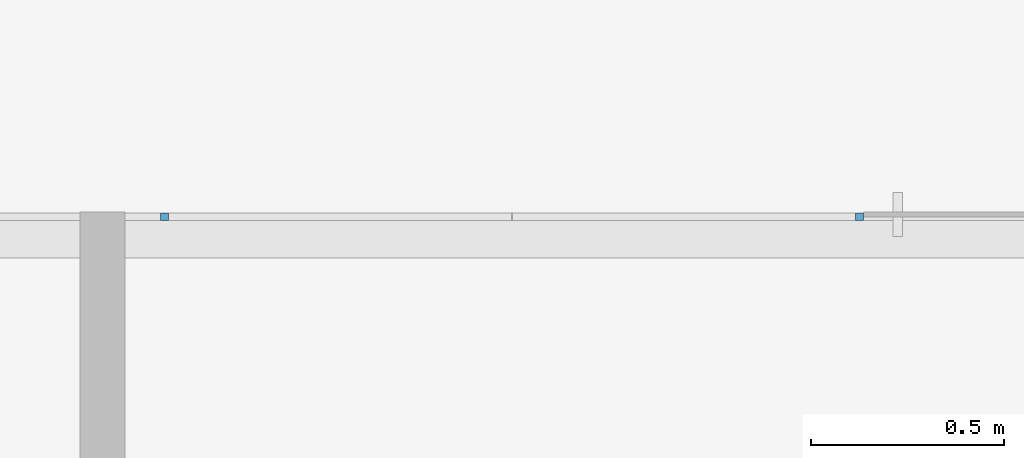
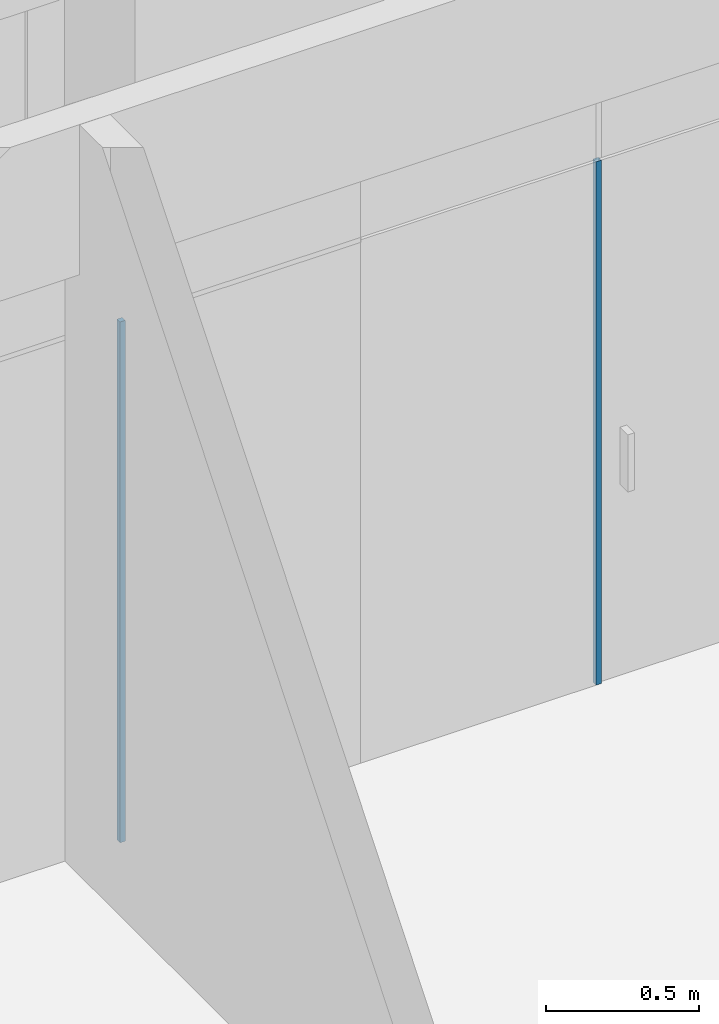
# One storey, part 3 of 73: 2 members, 1 element without a shape of its own.
"""IFC2X3 building model written with IfcOpenShell, lengths in millimetres."""

from ifc_helpers import new_model, entity, si_unit, converted_unit, derived_unit, direction, frame, origin, origin_2d_with_axis, place, context, subcontext, project, spatial, rectangle, extrude, source, transform, mapped, material, type_object, type_shapes, element, aggregate, save


model = new_model("IFC2X3")

# Units and contexts
model_context = context("Model", 3, precision=0.01, world=origin(), true_north=direction((6.12303176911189e-17, 1.0)))
body_context = subcontext(model_context, "Body", "Model", "MODEL_VIEW")
ifc_project = project(units=[si_unit("LENGTHUNIT", "METRE", prefix="MILLI"), si_unit("AREAUNIT", "SQUARE_METRE"), si_unit("VOLUMEUNIT", "CUBIC_METRE"), converted_unit("PLANEANGLEUNIT", "DEGREE", entity("IfcRatioMeasure", 0.0174532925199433), si_unit("PLANEANGLEUNIT", "RADIAN"), dimensions=[0, 0, 0, 0, 0, 0, 0]), si_unit("MASSUNIT", "GRAM", prefix="KILO"), derived_unit("MASSDENSITYUNIT", [(si_unit("MASSUNIT", "GRAM", prefix="KILO"), 1), (si_unit("LENGTHUNIT", "METRE"), -3)]), si_unit("TIMEUNIT", "SECOND"), si_unit("FREQUENCYUNIT", "HERTZ"), si_unit("THERMODYNAMICTEMPERATUREUNIT", "DEGREE_CELSIUS"), derived_unit("THERMALTRANSMITTANCEUNIT", [(si_unit("MASSUNIT", "GRAM", prefix="KILO"), 1), (si_unit("THERMODYNAMICTEMPERATUREUNIT", "KELVIN"), -1), (si_unit("TIMEUNIT", "SECOND"), -3)]), derived_unit("VOLUMETRICFLOWRATEUNIT", [(si_unit("LENGTHUNIT", "METRE"), 3), (si_unit("TIMEUNIT", "SECOND"), -1)]), si_unit("ELECTRICCURRENTUNIT", "AMPERE"), si_unit("ELECTRICVOLTAGEUNIT", "VOLT"), si_unit("POWERUNIT", "WATT"), si_unit("FORCEUNIT", "NEWTON", prefix="KILO"), si_unit("ILLUMINANCEUNIT", "LUX"), si_unit("LUMINOUSFLUXUNIT", "LUMEN"), si_unit("LUMINOUSINTENSITYUNIT", "CANDELA"), derived_unit("USERDEFINED", [(si_unit("MASSUNIT", "GRAM", prefix="KILO"), -1), (si_unit("LENGTHUNIT", "METRE"), -2), (si_unit("TIMEUNIT", "SECOND"), 3), (si_unit("LUMINOUSFLUXUNIT", "LUMEN"), 1)]), derived_unit("LINEARVELOCITYUNIT", [(si_unit("LENGTHUNIT", "METRE"), 1), (si_unit("TIMEUNIT", "SECOND"), -1)]), si_unit("PRESSUREUNIT", "PASCAL"), derived_unit("USERDEFINED", [(si_unit("LENGTHUNIT", "METRE"), -2), (si_unit("MASSUNIT", "GRAM", prefix="KILO"), 1), (si_unit("TIMEUNIT", "SECOND"), -2)])], contexts=[model_context])

# Site, building, storey
site_placement = place(None, frame((-151.875543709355, 2715.0, 0.0)))
site = spatial("IfcSite", under=ifc_project, at=site_placement, Name="Surface", CompositionType="ELEMENT")
building_placement = place(site_placement, origin())
building = spatial("IfcBuilding", under=site, at=building_placement, CompositionType="ELEMENT")
storey_placement = place(building_placement, frame((0.0, 0.0, 6730.43000000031)))
storey = spatial("IfcBuildingStorey", under=building, at=storey_placement, Name="3 korrus", CompositionType="ELEMENT", Elevation=6730.43000000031)

# Curtain wall, members
curtain_wall_type = type_object("IfcCurtainWallType", Name="Curtain Wall:Klaassein KLS-19", PredefinedType="NOTDEFINED")
curtain_wall_placement = place(storey_placement, frame((0.0, 0.0, -6730.43000000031)))
curtain_wall = element("IfcCurtainWall", 1, at=curtain_wall_placement, inside=storey, type_object=curtain_wall_type, Name="Curtain Wall:Klaassein KLS-19", ObjectType="Curtain Wall:Klaassein KLS-19")
ifc_material = material(Name="__Uks_hele tamm")
member_type_1 = type_object("IfcMemberType", Name="20 x 20mm", PredefinedType="MEMBER")
shared_shape_1 = source(origin(), body_context, "Body", "SweptSolid", [
    extrude(rectangle(XDim=20.0, YDim=20.0, at=origin_2d_with_axis()), frame((0.0, 0.0, -2090.0), z_axis=(0.0, 0.0, 1.0), x_axis=(0.0, -1.0, 0.0)), (0.0, 0.0, 1.0), 2090.0),
])
type_shapes(member_type_1, [shared_shape_1])
member_1_placement = place(storey_placement, frame((20262.0647261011, 4355.04493399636, 0.0), z_axis=(0.0, 0.0, -1.0), x_axis=(-1.0, 0.0, 0.0)))
member_1 = element("IfcMember", 2, at=member_1_placement, type_object=member_type_1, material=ifc_material, Name="Rectangular Mullion:20 x 20mm", ObjectType="20 x 20mm", context=body_context, shape_type="MappedRepresentation", body=[
    mapped(shared_shape_1, transform((0.0, 0.0, 0.0), scale=1.0)),
])
member_type_2 = type_object("IfcMemberType", Name="20 x 20mm", PredefinedType="MEMBER")
shared_shape_2 = source(origin(), body_context, "Body", "SweptSolid", [
    extrude(rectangle(XDim=20.0, YDim=20.0, at=origin_2d_with_axis()), frame((0.0, 0.0, -2080.0), z_axis=(0.0, 0.0, 1.0), x_axis=(0.0, -1.0, 0.0)), (0.0, 0.0, 1.0), 2080.0),
])
type_shapes(member_type_2, [shared_shape_2])
member_2_placement = place(storey_placement, frame((18463.0647261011, 4355.04493399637, 0.0), z_axis=(0.0, 0.0, -1.0), x_axis=(-1.0, 0.0, 0.0)))
member_2 = element("IfcMember", 3, at=member_2_placement, type_object=member_type_2, material=ifc_material, Name="Rectangular Mullion:20 x 20mm", ObjectType="20 x 20mm", context=body_context, shape_type="MappedRepresentation", body=[
    mapped(shared_shape_2, transform((0.0, 0.0, 0.0), scale=1.0)),
])
aggregate(curtain_wall, [member_1, member_2])

save(model, "model.ifc")
